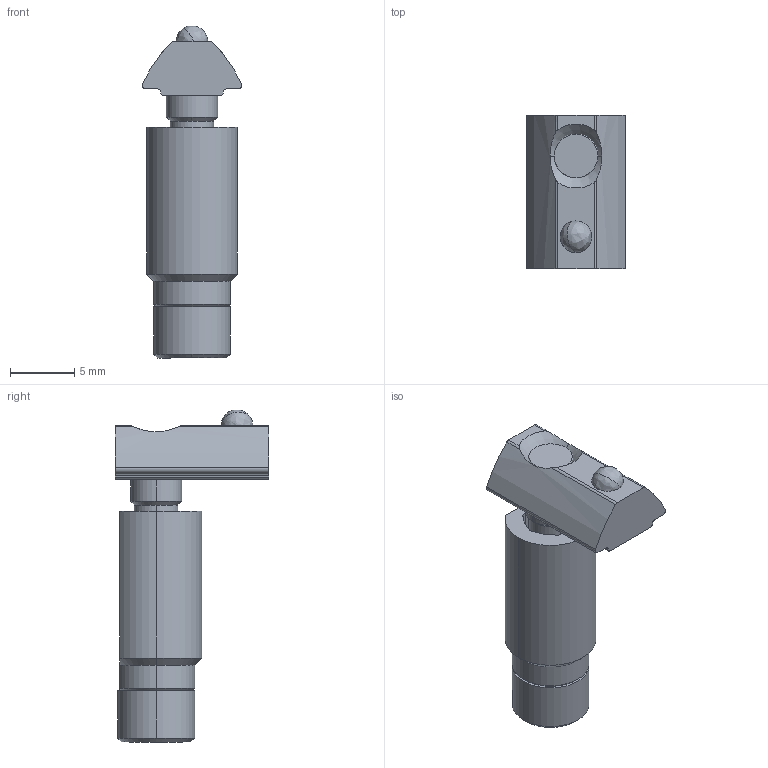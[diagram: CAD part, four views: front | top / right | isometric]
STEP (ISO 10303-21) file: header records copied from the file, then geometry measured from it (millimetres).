
FILE_DESCRIPTION (( 'STEP AP203' ), '1' );
FILE_NAME ('10120_EINSTZ5.STEP', '2018-05-28T08:54:57', ( '' ), ( '' ), 'SwSTEP 2.0', 'SolidWorks 2017', '' );
FILE_SCHEMA (( 'CONFIG_CONTROL_DESIGN' ));
Length unit declared in the file: millimetre
Products named in the file (1): 10120_EINSTZ5
Bounding box: 7.75 x 12 x 25.92 mm (x, y, z)
Volume: 848.1 mm3; surface area: 1259.8 mm2
Topology: 4 solids, 4 shells, 102 faces, 262 edges, 162 vertices
Faces by surface type: cylinder 46, plane 33, cone 21, bspline 2
Entity records: 3190 total; most frequent: CARTESIAN_POINT 618, DIRECTION 557, ORIENTED_EDGE 508, EDGE_CURVE 254, AXIS2_PLACEMENT_3D 219, VERTEX_POINT 162, LINE 119, VECTOR 119
